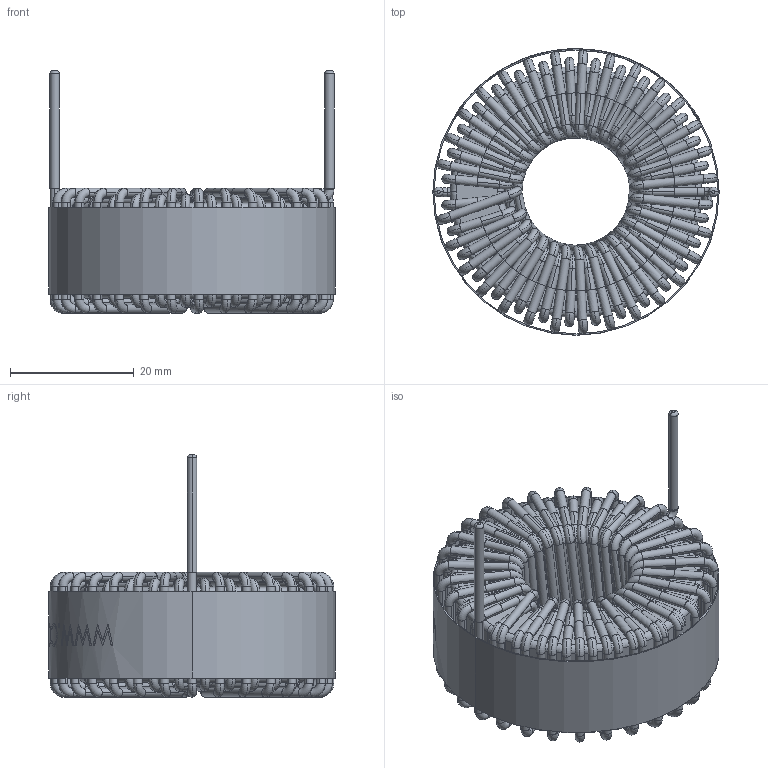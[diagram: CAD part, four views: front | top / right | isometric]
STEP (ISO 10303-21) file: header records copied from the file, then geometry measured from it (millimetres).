
FILE_DESCRIPTION (( 'STEP AP214' ), '1' );
FILE_NAME ('HF400-601M-8.0AH.STEP', '2021-05-08T06:59:28', ( '' ), ( '' ), 'SwSTEP 2.0', 'SolidWorks 2015', '' );
FILE_SCHEMA (( 'AUTOMOTIVE_DESIGN' ));
Length unit declared in the file: millimetre
Products named in the file (4): HF400-601M-8.0AH; WRAPPER; CORE; WINDING
Assembly tree (3 placements, depth 2):
  HF400-601M-8.0AH
    CORE
    WINDING
    WRAPPER
Bounding box: 46.3 x 46.32 x 39.2 mm (x, y, z)
Volume: 19521.3 mm3; surface area: 24808 mm2
Topology: 66 solids, 66 shells, 1416 faces, 3756 edges, 2488 vertices
Faces by surface type: cylinder 642, torus 502, plane 169, bspline 103
Entity records: 67060 total; most frequent: CARTESIAN_POINT 17924, DIRECTION 8831, ORIENTED_EDGE 7512, AXIS2_PLACEMENT_3D 4092, EDGE_CURVE 3756, CIRCLE 2773, VERTEX_POINT 2488, EDGE_LOOP 1436
